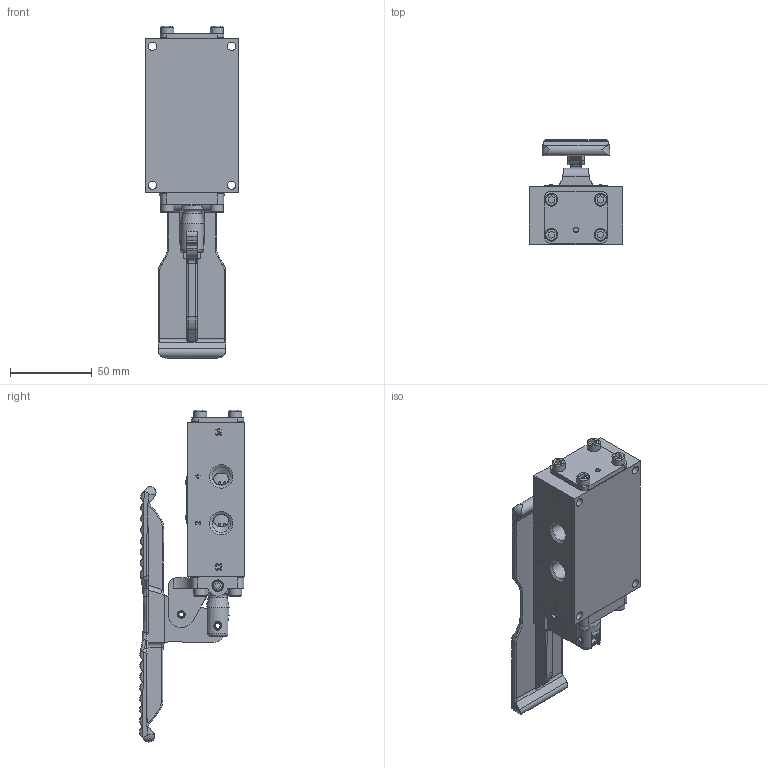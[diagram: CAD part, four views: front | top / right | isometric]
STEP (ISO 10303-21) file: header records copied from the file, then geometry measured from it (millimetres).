
FILE_DESCRIPTION(/* description */ (''),/* implementation_level */ '2;1');
FILE_NAME(/* name */ 'D:\Website Files\stp\Valves\Pedal\Special\292VY.stp',/* time_stamp */ '2016-06-24T09:54:31-04:00',/* author */ ('RMcKenna'),/* organization */ (''),/* preprocessor_version */ 'ST-DEVELOPER v15.6',/* originating_system */ 'Autodesk Inventor 2015',/* authorisation */ '');
FILE_SCHEMA (('AUTOMOTIVE_DESIGN { 1 0 10303 214 3 1 1 }'));
Length unit declared in the file: centimetre
Products named in the file (1): Part5
Bounding box: 57.15 x 64.13 x 202.97 mm (x, y, z)
Volume: 219973.4 mm3; surface area: 73110.2 mm2
Topology: 3 solids, 32 shells, 1379 faces, 3468 edges, 2227 vertices
Faces by surface type: plane 601, cylinder 299, cone 244, bspline 124, torus 107, sphere 4
Full cylindrical faces by diameter (mm): 2.07 x2, 2.261 x2, 2.778 x2, 3.175 x3, 3.683 x10, 3.912 x3, 4.75 x2, 4.763 x2, 4.826 x8, 4.978 x5, 5.156 x12, 5.41 x1, 7.938 x8, 8.153 x1, 9.922 x1, 11.113 x7, 11.303 x2, 14.275 x2, 14.986 x1, 18.618 x1, 18.745 x12, 19.177 x2, 23.825 x6
Entity records: 46053 total; most frequent: CARTESIAN_POINT 13870, ORIENTED_EDGE 6360, DIRECTION 5936, EDGE_CURVE 3179, AXIS2_PLACEMENT_3D 2193, VERTEX_POINT 2143, EDGE_LOOP 1719, LINE 1550
